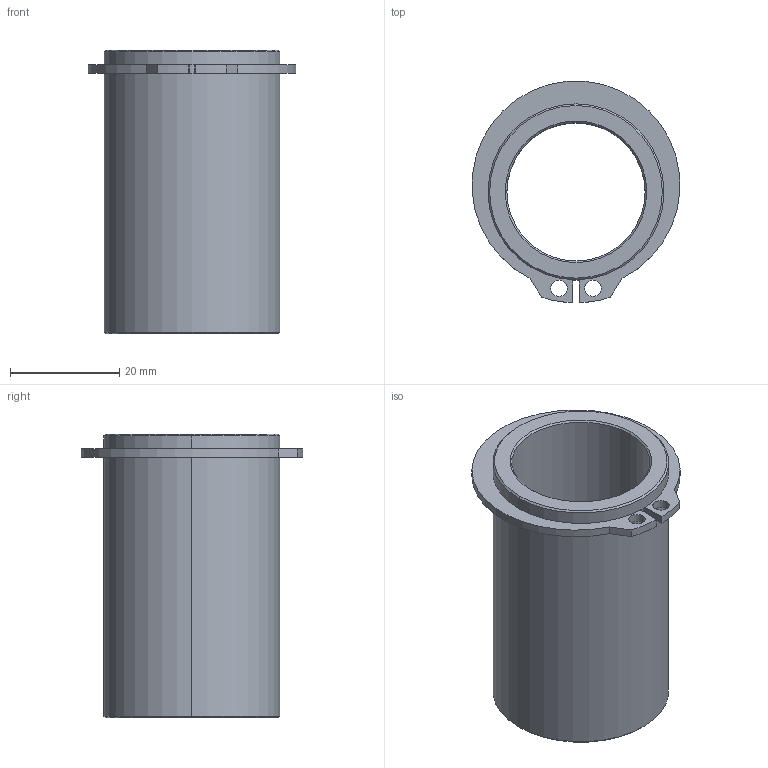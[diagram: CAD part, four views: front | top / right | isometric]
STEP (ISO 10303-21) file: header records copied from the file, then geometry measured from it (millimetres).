
FILE_DESCRIPTION((''),'2;1');
FILE_NAME('C13_025_052.stp','2008-12-17T15:01:13',(''),(''),'Mechanical Desktop 2009','Mechanical Desktop 2009',', , ');
FILE_SCHEMA(('CONFIG_CONTROL_DESIGN'));
Length unit declared in the file: millimetre
Products named in the file (2): Product; blmdl1
Assembly tree (1 placements, depth 2):
  Product
    blmdl1
Bounding box: 38.06 x 40.59 x 52 mm (x, y, z)
Volume: 16728.9 mm3; surface area: 11238.5 mm2
Topology: 2 solids, 2 shells, 34 faces, 76 edges, 48 vertices
Faces by surface type: cylinder 16, plane 10, cone 8
Entity records: 1075 total; most frequent: DIRECTION 188, CARTESIAN_POINT 160, ORIENTED_EDGE 152, AXIS2_PLACEMENT_3D 76, EDGE_CURVE 76, VERTEX_POINT 48, EDGE_LOOP 42, CIRCLE 40
